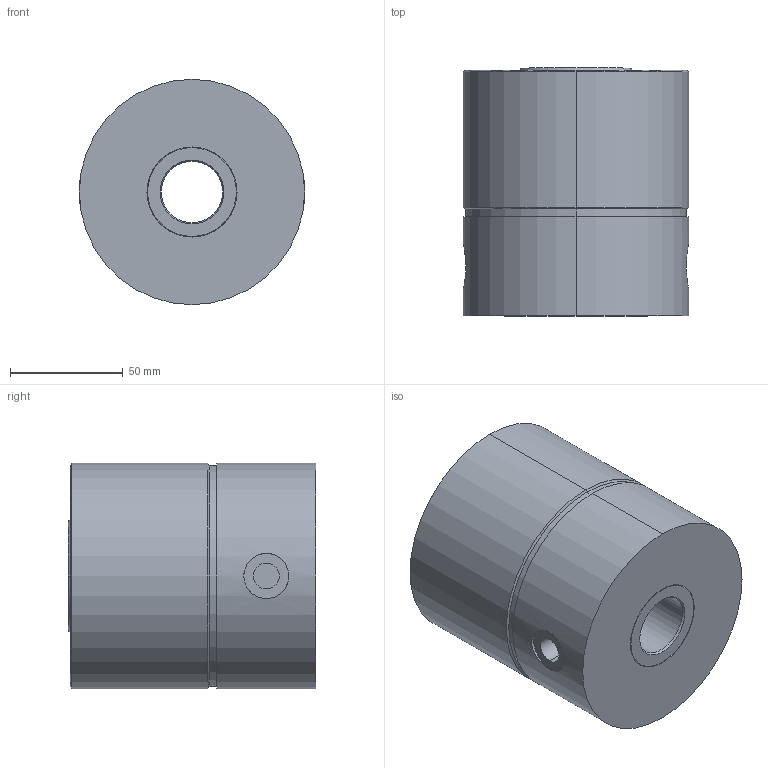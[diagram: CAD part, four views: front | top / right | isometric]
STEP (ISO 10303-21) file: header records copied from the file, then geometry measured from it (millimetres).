
FILE_DESCRIPTION (( 'STEP AP203' ), '1' );
FILE_NAME ('GERMA_Hohlkolbenzylinder_82-65-2-0.STEP', '2016-01-03T15:55:06', ( '' ), ( '' ), 'SwSTEP 2.0', 'SolidWorks 2015', '' );
FILE_SCHEMA (( 'CONFIG_CONTROL_DESIGN' ));
Length unit declared in the file: millimetre
Products named in the file (3): GERMA_Hohlkolbenzylinder_82-65-2-0; Gehaeuse 82-65-2_Geh„use; Kolben 82-65-X-0_Kolben
Assembly tree (2 placements, depth 2):
  GERMA_Hohlkolbenzylinder_82-65-2-0
    Gehaeuse 82-65-2_Geh„use
    Kolben 82-65-X-0_Kolben
Bounding box: 100 x 110 x 100 mm (x, y, z)
Volume: 709821.7 mm3; surface area: 110689.7 mm2
Topology: 2 solids, 2 shells, 73 faces, 150 edges, 92 vertices
Faces by surface type: cylinder 36, cone 20, plane 17
Entity records: 2413 total; most frequent: CARTESIAN_POINT 506, DIRECTION 384, ORIENTED_EDGE 292, AXIS2_PLACEMENT_3D 164, EDGE_CURVE 146, VERTEX_POINT 92, EDGE_LOOP 92, CIRCLE 86
